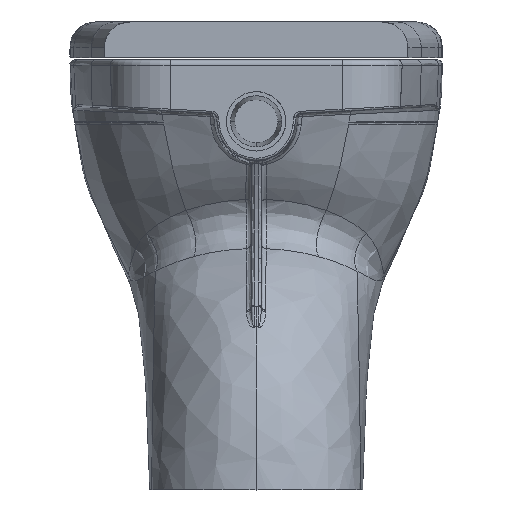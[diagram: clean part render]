
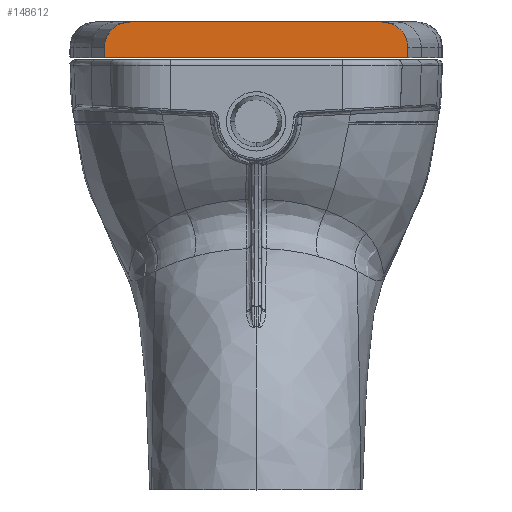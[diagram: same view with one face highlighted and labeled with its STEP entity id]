
A CAD part, left-side view. The second image highlights one B-rep face of the part: STEP entity #148612.
In plain terms, the highlighted planar face has unit normal (-1, 0, 0).
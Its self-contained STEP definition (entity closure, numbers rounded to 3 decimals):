
#148540=AXIS2_PLACEMENT_3D('Plane Axis2P3D',#148537,#148538,#148539) ;
#147842=CARTESIAN_POINT('Vertex',(73.767,-148.199,2.)) ;
#147845=CARTESIAN_POINT('Line Origine',(73.767,0.,2.)) ;
#147849=CARTESIAN_POINT('Vertex',(73.767,148.199,2.)) ;
#148522=CARTESIAN_POINT('Vertex',(73.767,-148.199,12.)) ;
#148525=CARTESIAN_POINT('Line Origine',(73.767,-148.199,2.)) ;
#148537=CARTESIAN_POINT('Axis2P3D Location',(73.767,0.,2.)) ;
#148542=CARTESIAN_POINT('Line Origine',(73.767,0.,37.)) ;
#148546=CARTESIAN_POINT('Vertex',(73.767,-122.631,37.)) ;
#148548=CARTESIAN_POINT('Vertex',(73.767,122.631,37.)) ;
#148552=CARTESIAN_POINT('Control Point',(73.767,148.199,12.)) ;
#148553=CARTESIAN_POINT('Control Point',(73.767,148.199,14.431)) ;
#148554=CARTESIAN_POINT('Control Point',(73.767,147.897,16.862)) ;
#148555=CARTESIAN_POINT('Control Point',(73.767,147.292,19.24)) ;
#148556=CARTESIAN_POINT('Control Point',(73.767,145.861,22.898)) ;
#148557=CARTESIAN_POINT('Control Point',(73.767,143.767,26.182)) ;
#148558=CARTESIAN_POINT('Control Point',(73.767,142.885,27.362)) ;
#148559=CARTESIAN_POINT('Control Point',(73.767,141.434,29.033)) ;
#148560=CARTESIAN_POINT('Control Point',(73.767,139.818,30.531)) ;
#148561=CARTESIAN_POINT('Control Point',(73.767,139.257,31.013)) ;
#148562=CARTESIAN_POINT('Control Point',(73.767,137.903,32.096)) ;
#148563=CARTESIAN_POINT('Control Point',(73.767,136.467,33.057)) ;
#148564=CARTESIAN_POINT('Control Point',(73.767,135.616,33.569)) ;
#148565=CARTESIAN_POINT('Control Point',(73.767,134.082,34.394)) ;
#148566=CARTESIAN_POINT('Control Point',(73.767,132.486,35.086)) ;
#148567=CARTESIAN_POINT('Control Point',(73.767,131.789,35.358)) ;
#148568=CARTESIAN_POINT('Control Point',(73.767,129.598,36.126)) ;
#148569=CARTESIAN_POINT('Control Point',(73.767,127.333,36.646)) ;
#148570=CARTESIAN_POINT('Control Point',(73.767,125.773,36.882)) ;
#148571=CARTESIAN_POINT('Control Point',(73.767,124.202,37.)) ;
#148572=CARTESIAN_POINT('Control Point',(73.767,122.631,37.)) ;
#148573=CARTESIAN_POINT('Vertex',(73.767,148.199,12.)) ;
#148576=CARTESIAN_POINT('Line Origine',(73.767,148.199,7.)) ;
#148582=CARTESIAN_POINT('Control Point',(73.767,-148.199,12.)) ;
#148583=CARTESIAN_POINT('Control Point',(73.767,-148.199,14.431)) ;
#148584=CARTESIAN_POINT('Control Point',(73.767,-147.897,16.862)) ;
#148585=CARTESIAN_POINT('Control Point',(73.767,-147.292,19.24)) ;
#148586=CARTESIAN_POINT('Control Point',(73.767,-145.861,22.898)) ;
#148587=CARTESIAN_POINT('Control Point',(73.767,-143.767,26.182)) ;
#148588=CARTESIAN_POINT('Control Point',(73.767,-142.885,27.362)) ;
#148589=CARTESIAN_POINT('Control Point',(73.767,-141.434,29.033)) ;
#148590=CARTESIAN_POINT('Control Point',(73.767,-139.818,30.531)) ;
#148591=CARTESIAN_POINT('Control Point',(73.767,-139.257,31.013)) ;
#148592=CARTESIAN_POINT('Control Point',(73.767,-137.903,32.096)) ;
#148593=CARTESIAN_POINT('Control Point',(73.767,-136.467,33.057)) ;
#148594=CARTESIAN_POINT('Control Point',(73.767,-135.616,33.569)) ;
#148595=CARTESIAN_POINT('Control Point',(73.767,-134.082,34.394)) ;
#148596=CARTESIAN_POINT('Control Point',(73.767,-132.486,35.086)) ;
#148597=CARTESIAN_POINT('Control Point',(73.767,-131.789,35.358)) ;
#148598=CARTESIAN_POINT('Control Point',(73.767,-129.598,36.126)) ;
#148599=CARTESIAN_POINT('Control Point',(73.767,-127.333,36.646)) ;
#148600=CARTESIAN_POINT('Control Point',(73.767,-125.773,36.882)) ;
#148601=CARTESIAN_POINT('Control Point',(73.767,-124.202,37.)) ;
#148602=CARTESIAN_POINT('Control Point',(73.767,-122.631,37.)) ;
#147846=DIRECTION('Vector Direction',(0.,1.,0.)) ;
#148526=DIRECTION('Vector Direction',(0.,0.,1.)) ;
#148538=DIRECTION('Axis2P3D Direction',(1.,0.,0.)) ;
#148539=DIRECTION('Axis2P3D XDirection',(0.,1.,0.)) ;
#148543=DIRECTION('Vector Direction',(0.,1.,0.)) ;
#148577=DIRECTION('Vector Direction',(0.,0.,1.)) ;
#147847=VECTOR('Line Direction',#147846,1.) ;
#148527=VECTOR('Line Direction',#148526,1.) ;
#148544=VECTOR('Line Direction',#148543,1.) ;
#148578=VECTOR('Line Direction',#148577,1.) ;
#148605=ORIENTED_EDGE('',*,*,#148550,.T.) ;
#148606=ORIENTED_EDGE('',*,*,#148575,.F.) ;
#148607=ORIENTED_EDGE('',*,*,#148580,.F.) ;
#148608=ORIENTED_EDGE('',*,*,#147851,.F.) ;
#148609=ORIENTED_EDGE('',*,*,#148529,.T.) ;
#148610=ORIENTED_EDGE('',*,*,#148603,.F.) ;
#148612=ADVANCED_FACE('Body.1',(#148611),#148541,.F.) ;
#148551=B_SPLINE_CURVE_WITH_KNOTS('',5,(#148552,#148553,#148554,#148555,#148556,#148557,#148558,#148559,#148560,#148561,#148562,#148563,#148564,#148565,#148566,#148567,#148568,#148569,#148570,#148571,#148572),.UNSPECIFIED.,.F.,.U.,(6,3,3,3,3,3,6),(0.,16.987,27.338,32.578,39.641,44.971,56.197),.UNSPECIFIED.) ;
#148581=B_SPLINE_CURVE_WITH_KNOTS('',5,(#148582,#148583,#148584,#148585,#148586,#148587,#148588,#148589,#148590,#148591,#148592,#148593,#148594,#148595,#148596,#148597,#148598,#148599,#148600,#148601,#148602),.UNSPECIFIED.,.F.,.U.,(6,3,3,3,3,3,6),(0.,16.987,27.338,32.578,39.641,44.971,56.197),.UNSPECIFIED.) ;
#147851=EDGE_CURVE('',#147843,#147850,#147848,.T.) ;
#148529=EDGE_CURVE('',#147843,#148523,#148528,.T.) ;
#148550=EDGE_CURVE('',#148547,#148549,#148545,.T.) ;
#148575=EDGE_CURVE('',#148574,#148549,#148551,.T.) ;
#148580=EDGE_CURVE('',#147850,#148574,#148579,.T.) ;
#148603=EDGE_CURVE('',#148547,#148523,#148581,.F.) ;
#148604=EDGE_LOOP('',(#148605,#148606,#148607,#148608,#148609,#148610)) ;
#148611=FACE_OUTER_BOUND('',#148604,.T.) ;
#147848=LINE('Line',#147845,#147847) ;
#148528=LINE('Line',#148525,#148527) ;
#148545=LINE('Line',#148542,#148544) ;
#148579=LINE('Line',#148576,#148578) ;
#148541=PLANE('Plane',#148540) ;
#147843=VERTEX_POINT('',#147842) ;
#147850=VERTEX_POINT('',#147849) ;
#148523=VERTEX_POINT('',#148522) ;
#148547=VERTEX_POINT('',#148546) ;
#148549=VERTEX_POINT('',#148548) ;
#148574=VERTEX_POINT('',#148573) ;
